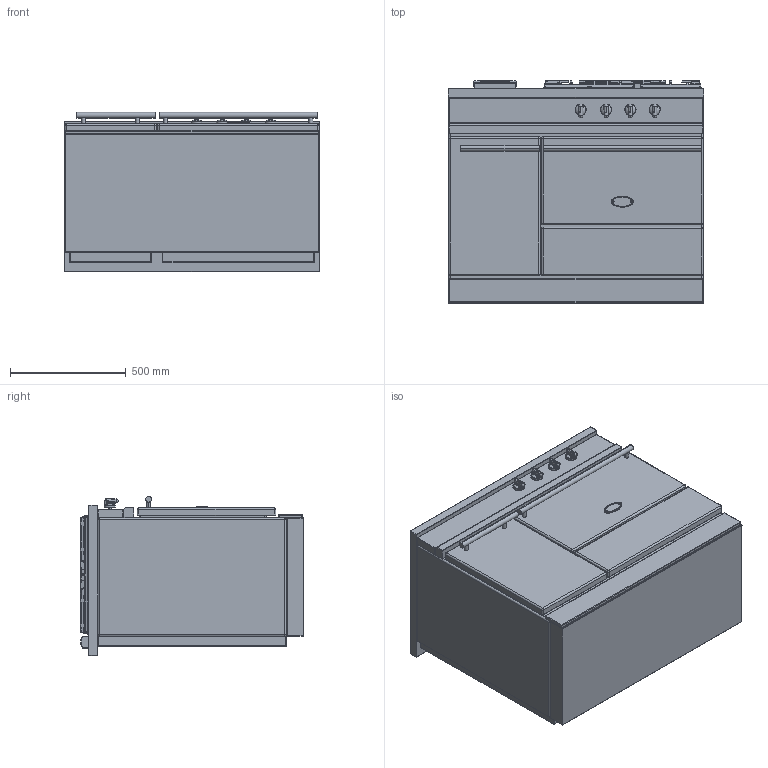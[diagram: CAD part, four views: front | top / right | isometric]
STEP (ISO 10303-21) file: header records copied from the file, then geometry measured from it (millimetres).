
FILE_DESCRIPTION((''),'2;1');
FILE_NAME('LMG1131_CHASSAGNE_ASM','2022-04-13T11:26:19',('stagiaire'),(''),'CREO PARAMETRIC BY PTC INC, 2021424','CREO PARAMETRIC BY PTC INC, 2021424','');
FILE_SCHEMA(('AP203_CONFIGURATION_CONTROLLED_3D_DESIGN_OF_MECHANICAL_PARTS_AND_ASSEMBLIES_MIM_LF { 1 0 10303 403 2 1 2 }'));
Products named in the file (20): BASE_EXP_CHASSAGNE_LMG1131; 65049009; 65650001; 65064012; 19150009; 88064012_ASM; BASE_EXPORT_CHASSAGNE_LMG1131_ASM; TABLE_1105G_CLASSIQUE_3_FEUX; 5KW; 1_5KW; 3KW; 6537025; 65149005; 90000488_ASM; 6537023; 90000565_ASM; CHEMINEE_2020_LG182_EXPORT_STEP; CHEMINEE_2020_LG371_EXPORT_STEP; TABLE_1105G_CLASSIQUE_3_FEUX_ASM; LMG1131_CHASSAGNE_ASM
Assembly tree (30 placements, depth 4):
  LMG1131_CHASSAGNE_ASM
    BASE_EXPORT_CHASSAGNE_LMG1131_ASM
      BASE_EXP_CHASSAGNE_LMG1131
      65049009
      65650001
      88064012_ASM  x4
        65064012
        19150009
    TABLE_1105G_CLASSIQUE_3_FEUX_ASM
      TABLE_1105G_CLASSIQUE_3_FEUX
      5KW
      1_5KW
      3KW
      90000488_ASM  x2
        6537025
        65149005
      90000565_ASM
        6537023
        65149005  x4
      CHEMINEE_2020_LG182_EXPORT_STEP
      CHEMINEE_2020_LG371_EXPORT_STEP
Bounding box: 1105 x 965 x 688.5 mm (x, y, z)
Volume: 589772543.2 mm3; surface area: 9082101.4 mm2
Topology: 36 solids, 36 shells, 4046 faces, 10965 edges, 6994 vertices
Faces by surface type: cylinder 1375, plane 1203, bspline 889, sphere 226, cone 212, torus 119, extrusion 22
Entity records: 137459 total; most frequent: CARTESIAN_POINT 47498, ORIENTED_EDGE 14620, DIRECTION 13330, EDGE_CURVE 7310, AXIS2_PLACEMENT_3D 4452, VERTEX_POINT 4446, VECTOR 4371, PRESENTATION_STYLE_ASSIGNMENT 4353
